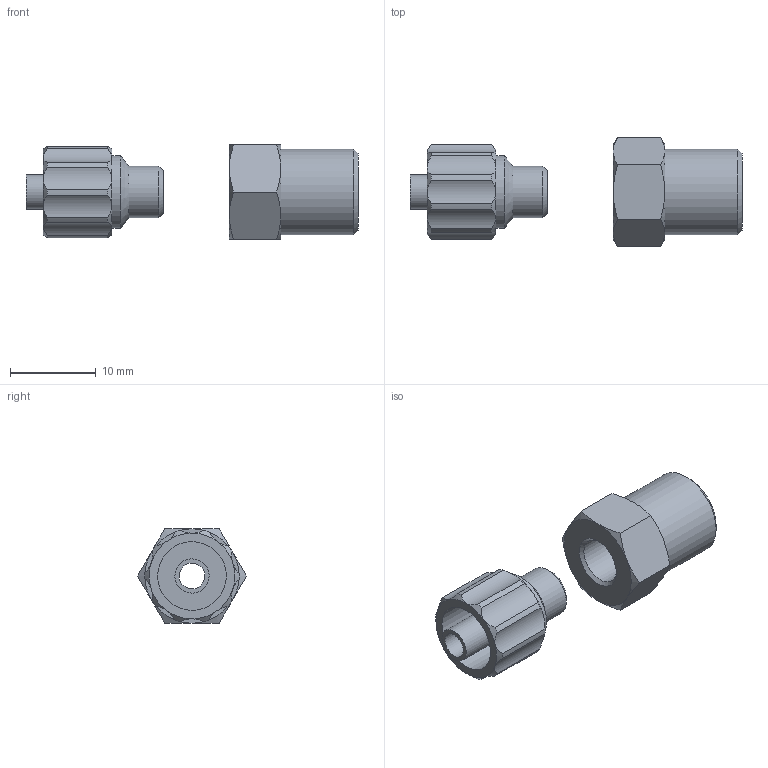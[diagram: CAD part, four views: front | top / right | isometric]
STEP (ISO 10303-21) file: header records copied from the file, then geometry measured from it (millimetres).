
FILE_DESCRIPTION((''),'2;1');
FILE_NAME('C:\3D Projects\3D Standard Parts\97233 Rev C Luer Lock Adapter Kit.stp','2008-04-29T11:45:31',('patch'),(''),'Autodesk Inventor 2008','Autodesk Inventor 2008','');
FILE_SCHEMA(('AUTOMOTIVE_DESIGN { 1 0 10303 214 1 1 1 1 }'));
Length unit declared in the file: inch
Products named in the file (3): 97233 Rev C Luer Lock Adapter Kit; 8900003 Luer Lock Adapter; 8900002 Luer Lock Fitting
Assembly tree (2 placements, depth 2):
  97233 Rev C Luer Lock Adapter Kit
    8900003 Luer Lock Adapter
    8900002 Luer Lock Fitting
Bounding box: 38.7 x 12.7 x 11 mm (x, y, z)
Volume: 1584.3 mm3; surface area: 1839.7 mm2
Topology: 2 solids, 2 shells, 79 faces, 178 edges, 107 vertices
Faces by surface type: cone 36, cylinder 27, plane 14, bspline 2
Full cylindrical faces by diameter (mm): 3 x1, 4 x1, 5 x1, 6 x1, 8 x1, 8.5 x1, 10 x1
Entity records: 2531 total; most frequent: CARTESIAN_POINT 830, DIRECTION 332, ORIENTED_EDGE 322, EDGE_CURVE 161, AXIS2_PLACEMENT_3D 153, VERTEX_POINT 103, EDGE_LOOP 100, FACE_OUTER_BOUND 79
